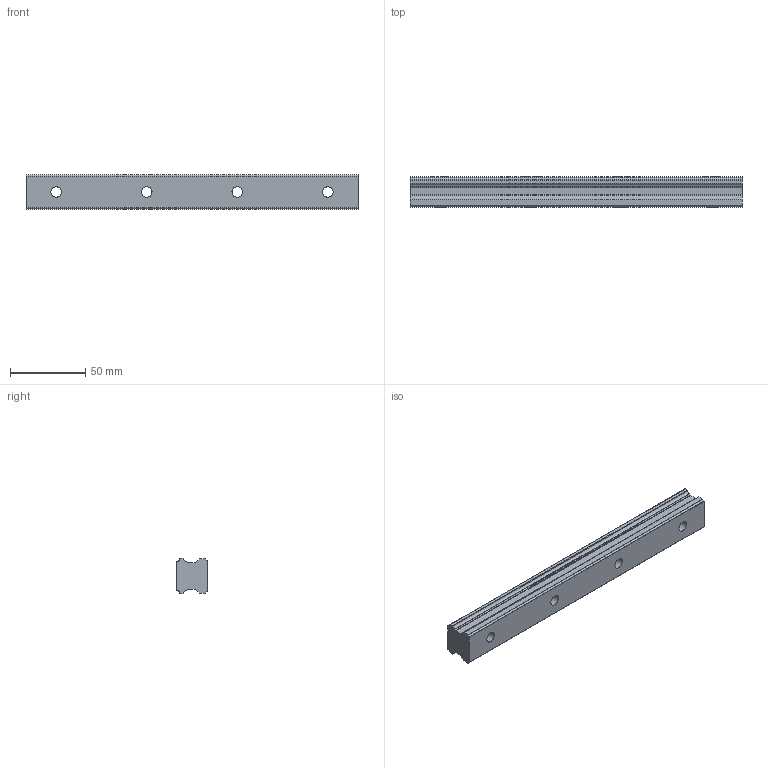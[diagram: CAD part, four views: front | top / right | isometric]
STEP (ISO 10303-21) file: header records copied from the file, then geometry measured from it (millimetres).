
FILE_DESCRIPTION(/* description */ ('STEP AP203'),/* implementation_level */ '2;1');
FILE_NAME(/* name */ 'SHS25-220L(GK) RAIL(20)',/* time_stamp */ '2024-05-14T03:41:57+02:00',/* author */ ('License CC BY-ND 4.0'),/* organization */ ('CADENAS'),/* preprocessor_version */ 'ST-DEVELOPER v19.3',/* originating_system */ 'PARTsolutions',/* authorisation */ ' ');
FILE_SCHEMA (('CONFIG_CONTROL_DESIGN'));
Length unit declared in the file: millimetre
Products named in the file (1): SHS25-220L(GK) RAIL(20)
Bounding box: 220 x 20 x 23 mm (x, y, z)
Volume: 84891.8 mm3; surface area: 21879.6 mm2
Topology: 1 solids, 1 shells, 50 faces, 132 edges, 88 vertices
Faces by surface type: cylinder 30, plane 20
Full cylindrical faces by diameter (mm): 7 x4, 11 x4
Entity records: 1582 total; most frequent: DIRECTION 286, CARTESIAN_POINT 263, ORIENTED_EDGE 248, EDGE_CURVE 124, AXIS2_PLACEMENT_3D 111, VERTEX_POINT 88, EDGE_LOOP 70, FACE_BOUND 70
